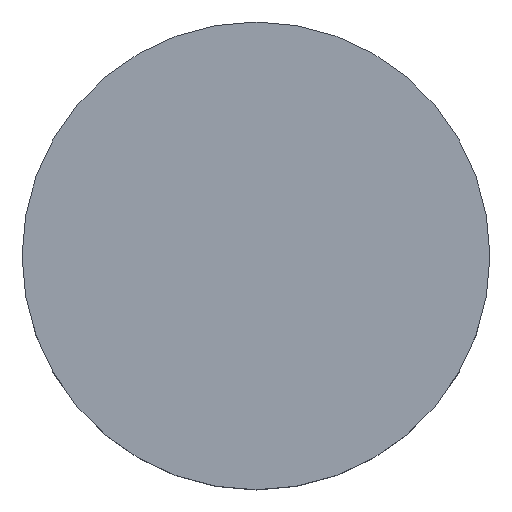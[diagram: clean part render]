
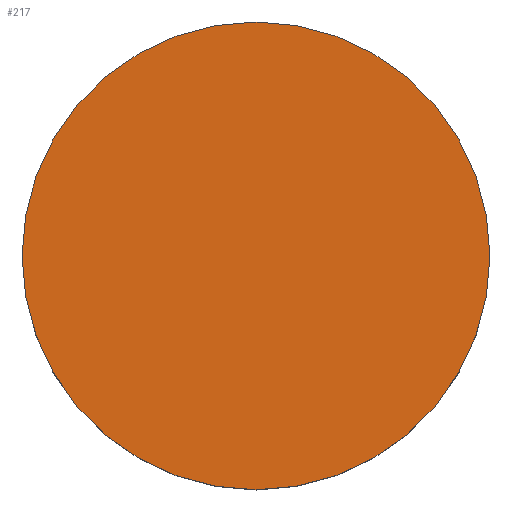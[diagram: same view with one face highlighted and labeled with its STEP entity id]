
A CAD part, top view. The second image highlights one B-rep face of the part: STEP entity #217.
In plain terms, the highlighted planar face has unit normal (0, 0, 1).
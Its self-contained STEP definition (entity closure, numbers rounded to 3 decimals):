
#217=ADVANCED_FACE('',(#281),#266,.T.);
#266=PLANE('',#798);
#281=FACE_OUTER_BOUND('',#317,.T.);
#317=EDGE_LOOP('',(#379,#380));
#379=ORIENTED_EDGE('',*,*,#633,.F.);
#380=ORIENTED_EDGE('',*,*,#634,.F.);
#571=VERTEX_POINT('',#1175);
#572=VERTEX_POINT('',#1176);
#633=EDGE_CURVE('',#571,#572,#729,.T.);
#634=EDGE_CURVE('',#572,#571,#730,.T.);
#729=CIRCLE('',#796,9.5);
#730=CIRCLE('',#797,9.5);
#796=AXIS2_PLACEMENT_3D('',#1174,#913,#914);
#797=AXIS2_PLACEMENT_3D('',#1177,#915,#916);
#798=AXIS2_PLACEMENT_3D('',#1178,#917,#918);
#913=DIRECTION('',(0.,0.,-1.));
#914=DIRECTION('',(0.,1.,0.));
#915=DIRECTION('',(0.,0.,-1.));
#916=DIRECTION('',(0.,-1.,0.));
#917=DIRECTION('',(0.,0.,1.));
#918=DIRECTION('',(0.,-1.,0.));
#1174=CARTESIAN_POINT('',(0.,0.,5.));
#1175=CARTESIAN_POINT('',(9.5,0.,5.));
#1176=CARTESIAN_POINT('',(-9.5,0.,5.));
#1177=CARTESIAN_POINT('',(0.,0.,5.));
#1178=CARTESIAN_POINT('',(0.,0.,5.));
